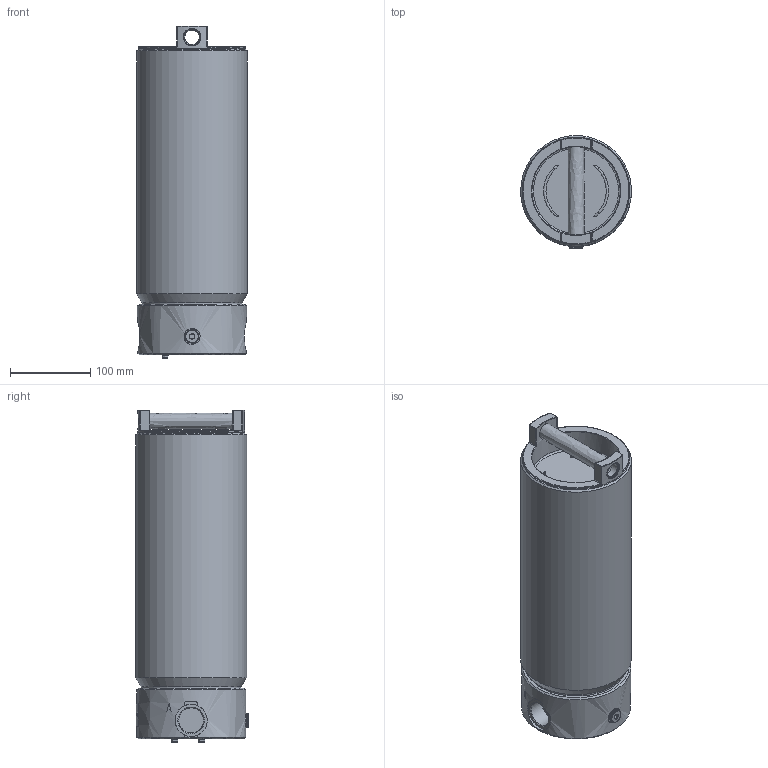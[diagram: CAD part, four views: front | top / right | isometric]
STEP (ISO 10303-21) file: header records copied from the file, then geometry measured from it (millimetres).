
FILE_DESCRIPTION((''),'2;1');
FILE_NAME('U:\Users\a.heinl\Nebenstromfilter_FN.stp', '2013-06-24T08:52:04',('User'),('SDRC'),'I-DEAS Master Series 9','UNIX', 'Yes');
FILE_SCHEMA(('CONFIG_CONTROL_DESIGN', 'GEOMETRIC_VALIDATION_PROPERTIES_MIM','SHAPE_APPEARANCE_LAYER_MIM'));
Length unit declared in the file: millimetre
Bounding box: 137.84 x 140.09 x 413.5 mm (x, y, z)
Volume: 5444962.2 mm3; surface area: 234390.4 mm2
Topology: 1 solids, 5 shells, 266 faces, 588 edges, 367 vertices
Faces by surface type: bspline 266
Entity records: 9316 total; most frequent: CARTESIAN_POINT 5719, ORIENTED_EDGE 1162, EDGE_CURVE 581, VERTEX_POINT 361, EDGE_LOOP 314, FACE_OUTER_BOUND 266, ADVANCED_FACE 266, B_SPLINE_CURVE_WITH_KNOTS 212
